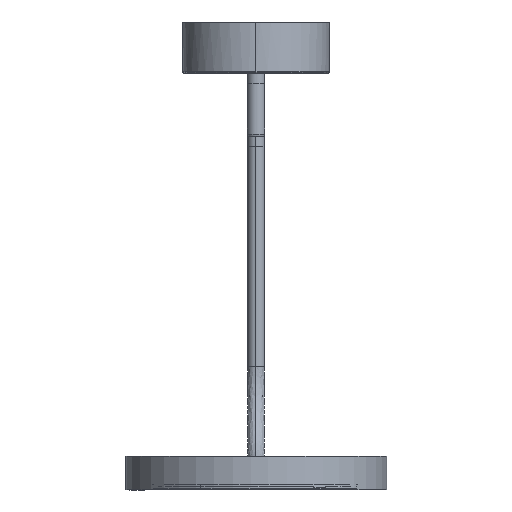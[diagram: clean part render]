
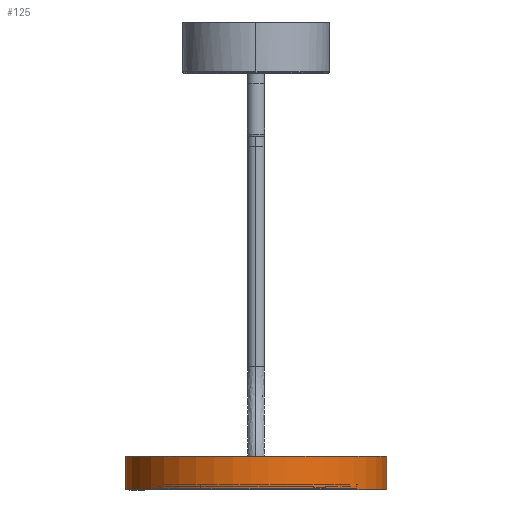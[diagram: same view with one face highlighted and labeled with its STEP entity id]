
A CAD part, left-side view. The second image highlights one B-rep face of the part: STEP entity #125.
In plain terms, the highlighted free-form (B-spline) face has degree [2, 1] with [5, 2] control points.
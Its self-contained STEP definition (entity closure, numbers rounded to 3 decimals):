
#125=ADVANCED_FACE('',(#271),#2133,.T.);
#271=FACE_OUTER_BOUND('',#430,.T.);
#430=EDGE_LOOP('',(#771,#772,#773,#774));
#771=ORIENTED_EDGE('',*,*,#1299,.T.);
#772=ORIENTED_EDGE('',*,*,#1300,.T.);
#773=ORIENTED_EDGE('',*,*,#1301,.F.);
#774=ORIENTED_EDGE('',*,*,#1302,.F.);
#1299=EDGE_CURVE('',#1904,#1905,#1727,.T.);
#1300=EDGE_CURVE('',#1905,#1906,#1728,.T.);
#1301=EDGE_CURVE('',#1907,#1906,#1729,.T.);
#1302=EDGE_CURVE('',#1904,#1907,#1730,.T.);
#1727=(
BOUNDED_CURVE()
B_SPLINE_CURVE(2,(#4239,#4240,#4241,#4242,#4243),.UNSPECIFIED.,.F.,.F.)
B_SPLINE_CURVE_WITH_KNOTS((3,2,3),(0.,196.35,392.699),
 .UNSPECIFIED.)
CURVE()
GEOMETRIC_REPRESENTATION_ITEM()
RATIONAL_B_SPLINE_CURVE((1.,0.707,1.,0.707,1.))
REPRESENTATION_ITEM('')
);
#1728=(
BOUNDED_CURVE()
B_SPLINE_CURVE(1,(#4244,#4245),.UNSPECIFIED.,.F.,.F.)
B_SPLINE_CURVE_WITH_KNOTS((2,2),(0.,32.),.UNSPECIFIED.)
CURVE()
GEOMETRIC_REPRESENTATION_ITEM()
RATIONAL_B_SPLINE_CURVE((1.,1.))
REPRESENTATION_ITEM('')
);
#1729=(
BOUNDED_CURVE()
B_SPLINE_CURVE(2,(#4246,#4247,#4248,#4249,#4250),.UNSPECIFIED.,.F.,.F.)
B_SPLINE_CURVE_WITH_KNOTS((3,2,3),(0.,196.35,392.699),
 .UNSPECIFIED.)
CURVE()
GEOMETRIC_REPRESENTATION_ITEM()
RATIONAL_B_SPLINE_CURVE((1.,0.707,1.,0.707,1.))
REPRESENTATION_ITEM('')
);
#1730=(
BOUNDED_CURVE()
B_SPLINE_CURVE(1,(#4251,#4252),.UNSPECIFIED.,.F.,.F.)
B_SPLINE_CURVE_WITH_KNOTS((2,2),(0.,32.),.UNSPECIFIED.)
CURVE()
GEOMETRIC_REPRESENTATION_ITEM()
RATIONAL_B_SPLINE_CURVE((1.,1.))
REPRESENTATION_ITEM('')
);
#1904=VERTEX_POINT('',#4228);
#1905=VERTEX_POINT('',#4229);
#1906=VERTEX_POINT('',#4230);
#1907=VERTEX_POINT('',#4231);
#2133=(
BOUNDED_SURFACE()
B_SPLINE_SURFACE(2,1,((#4164,#4165),(#4166,#4167),(#4168,#4169),(#4170,
#4171),(#4172,#4173)),.UNSPECIFIED.,.F.,.F.,.F.)
B_SPLINE_SURFACE_WITH_KNOTS((3,2,3),(2,2),(0.,196.35,392.699),
(0.,32.),.UNSPECIFIED.)
GEOMETRIC_REPRESENTATION_ITEM()
RATIONAL_B_SPLINE_SURFACE(((1.,1.),(0.707,0.707),
(1.,1.),(0.707,0.707),(1.,1.)))
REPRESENTATION_ITEM('')
SURFACE()
);
#4164=CARTESIAN_POINT('',(-922.,-98.5,-223.5));
#4165=CARTESIAN_POINT('',(-922.,-98.5,-191.5));
#4166=CARTESIAN_POINT('',(-1047.,-98.5,-223.5));
#4167=CARTESIAN_POINT('',(-1047.,-98.5,-191.5));
#4168=CARTESIAN_POINT('',(-1047.,-223.5,-223.5));
#4169=CARTESIAN_POINT('',(-1047.,-223.5,-191.5));
#4170=CARTESIAN_POINT('',(-1047.,-348.5,-223.5));
#4171=CARTESIAN_POINT('',(-1047.,-348.5,-191.5));
#4172=CARTESIAN_POINT('',(-922.,-348.5,-223.5));
#4173=CARTESIAN_POINT('',(-922.,-348.5,-191.5));
#4228=CARTESIAN_POINT('',(-922.,-98.5,-223.5));
#4229=CARTESIAN_POINT('',(-922.,-348.5,-223.5));
#4230=CARTESIAN_POINT('',(-922.,-348.5,-191.5));
#4231=CARTESIAN_POINT('',(-922.,-98.5,-191.5));
#4239=CARTESIAN_POINT('',(-922.,-98.5,-223.5));
#4240=CARTESIAN_POINT('',(-1047.,-98.5,-223.5));
#4241=CARTESIAN_POINT('',(-1047.,-223.5,-223.5));
#4242=CARTESIAN_POINT('',(-1047.,-348.5,-223.5));
#4243=CARTESIAN_POINT('',(-922.,-348.5,-223.5));
#4244=CARTESIAN_POINT('',(-922.,-348.5,-223.5));
#4245=CARTESIAN_POINT('',(-922.,-348.5,-191.5));
#4246=CARTESIAN_POINT('',(-922.,-98.5,-191.5));
#4247=CARTESIAN_POINT('',(-1047.,-98.5,-191.5));
#4248=CARTESIAN_POINT('',(-1047.,-223.5,-191.5));
#4249=CARTESIAN_POINT('',(-1047.,-348.5,-191.5));
#4250=CARTESIAN_POINT('',(-922.,-348.5,-191.5));
#4251=CARTESIAN_POINT('',(-922.,-98.5,-223.5));
#4252=CARTESIAN_POINT('',(-922.,-98.5,-191.5));
